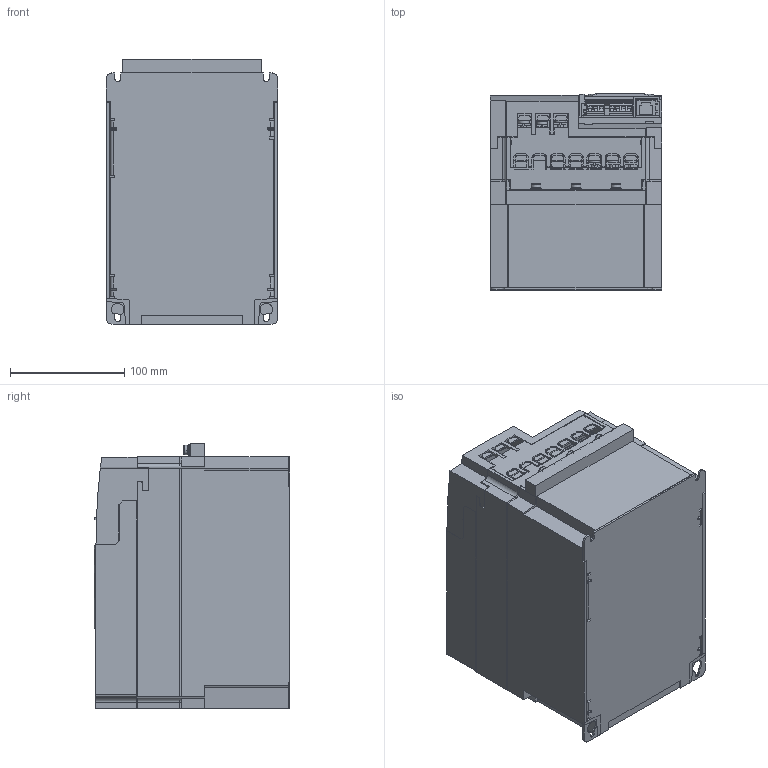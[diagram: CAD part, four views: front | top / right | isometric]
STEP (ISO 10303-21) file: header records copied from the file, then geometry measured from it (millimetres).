
FILE_DESCRIPTION(('STEP AP242'),'1');
FILE_NAME('atv310hd11n4.stp','2019-08-20T01:26:56',('TraceParts'),('TraceParts S.A.'),'Spatial InterOp 3D',' ',' ');
FILE_SCHEMA(('AP242_MANAGED_MODEL_BASED_3D_ENGINEERING_MIM_LF {1 0 10303 442 1 1 4}'));
Length unit declared in the file: millimetre
Products named in the file (1): atv310hd11n4_1
Bounding box: 150 x 171.35 x 232.4 mm (x, y, z)
Volume: 839993.6 mm3; surface area: 719094.3 mm2
Topology: 32 solids, 32 shells, 3784 faces, 10565 edges, 6945 vertices
Faces by surface type: plane 2860, cylinder 810, torus 68, bspline 30, cone 16
Entity records: 127614 total; most frequent: CARTESIAN_POINT 28824, ORIENTED_EDGE 21128, DIRECTION 19627, EDGE_CURVE 10564, LINE 8131, VECTOR 8131, VERTEX_POINT 6945, AXIS2_PLACEMENT_3D 5748
